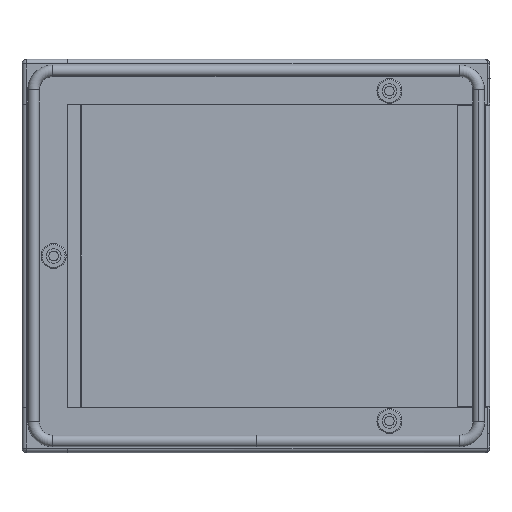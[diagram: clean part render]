
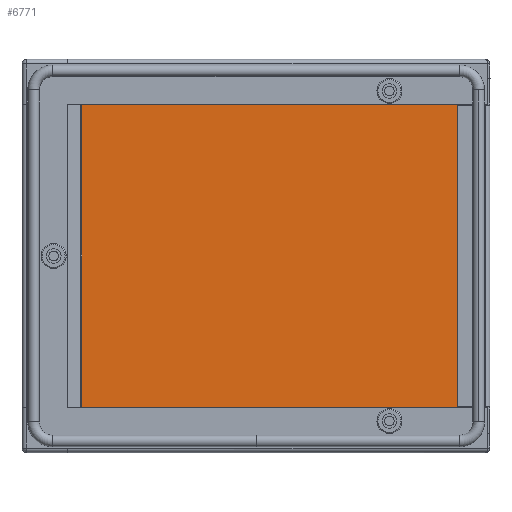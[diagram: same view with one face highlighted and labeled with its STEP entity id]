
A CAD part, left-side view. The second image highlights one B-rep face of the part: STEP entity #6771.
In plain terms, the highlighted planar face has unit normal (-1, 0, 0).
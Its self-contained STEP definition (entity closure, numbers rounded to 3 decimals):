
#416 = DIRECTION ( 'NONE',  ( 0., 0., 1. ) ) ;
#519 = CARTESIAN_POINT ( 'NONE',  ( -1.2, 104.106, 100.1 ) ) ;
#687 = VERTEX_POINT ( 'NONE', #9447 ) ;
#1026 = CARTESIAN_POINT ( 'NONE',  ( -1.2, 0., 0. ) ) ;
#1263 = DIRECTION ( 'NONE',  ( 0., -1., 0. ) ) ;
#1326 = VECTOR ( 'NONE', #416, 1000. ) ;
#2022 = VERTEX_POINT ( 'NONE', #3054 ) ;
#2065 = DIRECTION ( 'NONE',  ( 0., 0., -1. ) ) ;
#2134 = VECTOR ( 'NONE', #3823, 1000. ) ;
#2446 = CARTESIAN_POINT ( 'NONE',  ( -1.2, 104.106, 100.1 ) ) ;
#2841 = EDGE_CURVE ( 'NONE', #2022, #687, #7572, .T. ) ;
#3043 = EDGE_LOOP ( 'NONE', ( #8774, #8618, #9217, #5052 ) ) ;
#3054 = CARTESIAN_POINT ( 'NONE',  ( -1.2, -106.3, 100.1 ) ) ;
#3138 = LINE ( 'NONE', #519, #4626 ) ;
#3205 = EDGE_CURVE ( 'NONE', #3793, #5930, #9099, .T. ) ;
#3793 = VERTEX_POINT ( 'NONE', #9372 ) ;
#3823 = DIRECTION ( 'NONE',  ( 0., 1., 0. ) ) ;
#4040 = DIRECTION ( 'NONE',  ( -1., 0., 0. ) ) ;
#4090 = VECTOR ( 'NONE', #2065, 1000. ) ;
#4626 = VECTOR ( 'NONE', #1263, 1000. ) ;
#4835 = EDGE_CURVE ( 'NONE', #5930, #2022, #3138, .T. ) ;
#5052 = ORIENTED_EDGE ( 'NONE', *, *, #4835, .F. ) ;
#5216 = CARTESIAN_POINT ( 'NONE',  ( -1.2, -106.3, -100.1 ) ) ;
#5464 = PLANE ( 'NONE',  #8446 ) ;
#5542 = CARTESIAN_POINT ( 'NONE',  ( -1.2, 104.106, -101. ) ) ;
#5930 = VERTEX_POINT ( 'NONE', #2446 ) ;
#6538 = LINE ( 'NONE', #5216, #2134 ) ;
#6771 = ADVANCED_FACE ( 'NONE', ( #9262 ), #5464, .T. ) ;
#7572 = LINE ( 'NONE', #8828, #4090 ) ;
#7862 = EDGE_CURVE ( 'NONE', #687, #3793, #6538, .T. ) ;
#8446 = AXIS2_PLACEMENT_3D ( 'NONE', #1026, #4040, #9272 ) ;
#8618 = ORIENTED_EDGE ( 'NONE', *, *, #7862, .F. ) ;
#8774 = ORIENTED_EDGE ( 'NONE', *, *, #3205, .F. ) ;
#8828 = CARTESIAN_POINT ( 'NONE',  ( -1.2, -106.3, 101. ) ) ;
#9099 = LINE ( 'NONE', #5542, #1326 ) ;
#9217 = ORIENTED_EDGE ( 'NONE', *, *, #2841, .F. ) ;
#9262 = FACE_OUTER_BOUND ( 'NONE', #3043, .T. ) ;
#9272 = DIRECTION ( 'NONE',  ( 0., 0., 1. ) ) ;
#9372 = CARTESIAN_POINT ( 'NONE',  ( -1.2, 104.106, -100.1 ) ) ;
#9447 = CARTESIAN_POINT ( 'NONE',  ( -1.2, -106.3, -100.1 ) ) ;
